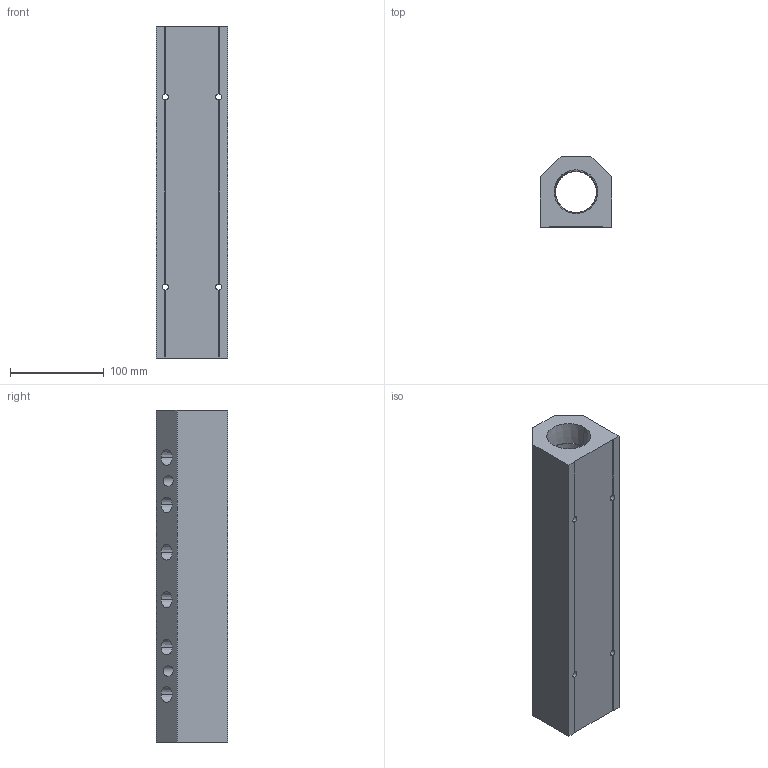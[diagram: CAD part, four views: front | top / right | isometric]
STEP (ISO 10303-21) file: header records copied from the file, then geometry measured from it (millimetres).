
FILE_DESCRIPTION (( 'STEP AP214' ), '1' );
FILE_NAME ('ALM6BCD-N6N24-355R.step', '2022-02-07T07:58:08', ( '' ), ( '' ), 'SwSTEP 2.0', 'SolidWorks 2020', '' );
FILE_SCHEMA (( 'AUTOMOTIVE_DESIGN' ));
Length unit declared in the file: millimetre
Products named in the file (1): ALM6BCD-N6N24-355R
Bounding box: 76.2 x 76.2 x 355 mm (x, y, z)
Volume: 1258166.8 mm3; surface area: 169231.9 mm2
Topology: 1 solids, 1 shells, 352 faces, 940 edges, 624 vertices
Faces by surface type: plane 210, bspline 84, cone 40, cylinder 18
Entity records: 21077 total; most frequent: CARTESIAN_POINT 9451, ORIENTED_EDGE 1880, DIRECTION 1330, EDGE_CURVE 940, LINE 648, VECTOR 648, VERTEX_POINT 624, EDGE_LOOP 432
